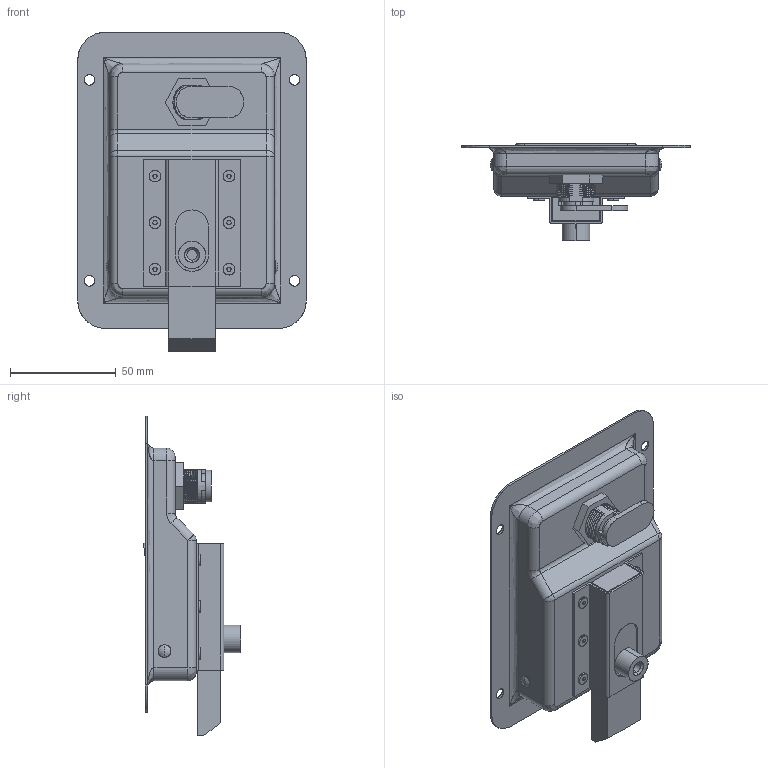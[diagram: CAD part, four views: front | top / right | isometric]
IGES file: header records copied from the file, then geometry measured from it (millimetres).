
Start section: SolidWorks IGES file using analytic representation for surfaces
Global section: file name: D:\尚坤工业图纸\SK1--门锁系列\SK1-5005\SK1-5005.IGS; native system: SolidWorks 2015; preprocessor: SolidWorks 2015; author: admin; date: 181101.114221; units: millimetre
Bounding box: 108 x 46 x 151 mm (x, y, z)
Surface area: 72487.3 mm2 (no closed solid volume)
Topology: 0 solids, 0 shells, 313 faces, 4062 edges, 4054 vertices
Faces by surface type: bspline 164, revolution 149
